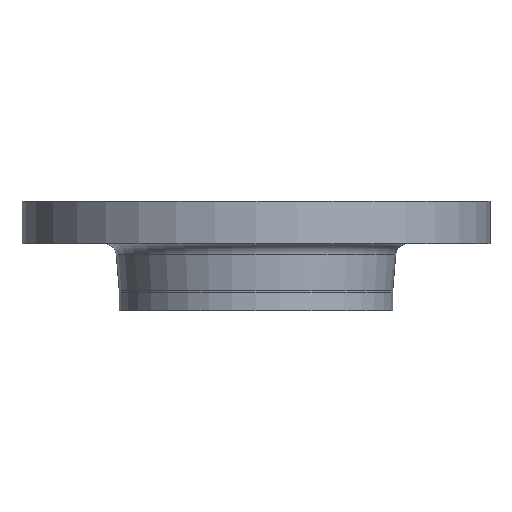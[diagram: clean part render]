
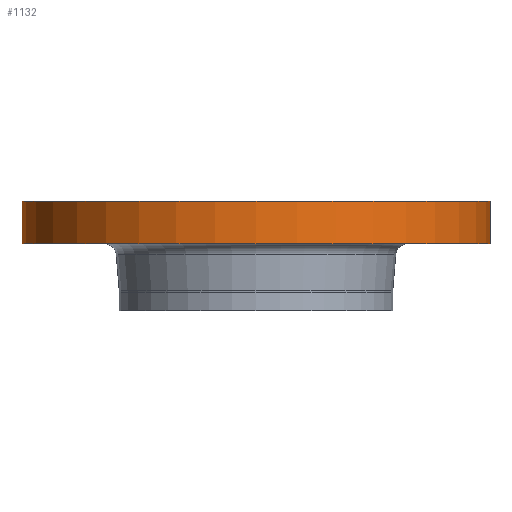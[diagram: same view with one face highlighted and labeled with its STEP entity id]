
A CAD part, front view. The second image highlights one B-rep face of the part: STEP entity #1132.
In plain terms, the highlighted cylindrical face has radius 187.5 mm (diameter 375 mm), a partial arc.
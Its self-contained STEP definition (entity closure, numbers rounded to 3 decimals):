
#64 = DIRECTION ( 'NONE',  ( 0., 0., 1. ) ) ;
#115 = CARTESIAN_POINT ( 'NONE',  ( 187.5, 0., 0. ) ) ;
#141 = CARTESIAN_POINT ( 'NONE',  ( -187.5, 0., 0. ) ) ;
#164 = DIRECTION ( 'NONE',  ( 0., 0., 1. ) ) ;
#176 = VERTEX_POINT ( 'NONE', #141 ) ;
#179 = ORIENTED_EDGE ( 'NONE', *, *, #1107, .F. ) ;
#182 = ORIENTED_EDGE ( 'NONE', *, *, #270, .F. ) ;
#183 = ORIENTED_EDGE ( 'NONE', *, *, #396, .T. ) ;
#185 = ORIENTED_EDGE ( 'NONE', *, *, #534, .F. ) ;
#196 = FACE_OUTER_BOUND ( 'NONE', #952, .T. ) ;
#233 = CIRCLE ( 'NONE', #235, 187.5 ) ;
#235 = AXIS2_PLACEMENT_3D ( 'NONE', #1101, #164, #704 ) ;
#242 = DIRECTION ( 'NONE',  ( 0., 0., 1. ) ) ;
#270 = EDGE_CURVE ( 'NONE', #281, #276, #772, .T. ) ;
#276 = VERTEX_POINT ( 'NONE', #1106 ) ;
#281 = VERTEX_POINT ( 'NONE', #708 ) ;
#332 = DIRECTION ( 'NONE',  ( -1., 0., 0. ) ) ;
#337 = CARTESIAN_POINT ( 'NONE',  ( -187.5, 0., -98. ) ) ;
#396 = EDGE_CURVE ( 'NONE', #281, #1321, #825, .T. ) ;
#534 = EDGE_CURVE ( 'NONE', #176, #1321, #233, .T. ) ;
#640 = DIRECTION ( 'NONE',  ( 1., 0., 0. ) ) ;
#669 = VECTOR ( 'NONE', #242, 1000. ) ;
#704 = DIRECTION ( 'NONE',  ( 1., 0., 0. ) ) ;
#708 = CARTESIAN_POINT ( 'NONE',  ( 187.5, 0., -34. ) ) ;
#712 = CYLINDRICAL_SURFACE ( 'NONE', #1144, 187.5 ) ;
#766 = AXIS2_PLACEMENT_3D ( 'NONE', #876, #1177, #332 ) ;
#772 = CIRCLE ( 'NONE', #766, 187.5 ) ;
#774 = VECTOR ( 'NONE', #791, 1000. ) ;
#791 = DIRECTION ( 'NONE',  ( 0., 0., 1. ) ) ;
#825 = LINE ( 'NONE', #1136, #669 ) ;
#876 = CARTESIAN_POINT ( 'NONE',  ( 0., 0., -34. ) ) ;
#952 = EDGE_LOOP ( 'NONE', ( #179, #182, #183, #185 ) ) ;
#1053 = CARTESIAN_POINT ( 'NONE',  ( 0., 0., -98. ) ) ;
#1101 = CARTESIAN_POINT ( 'NONE',  ( 0., 0., 0. ) ) ;
#1106 = CARTESIAN_POINT ( 'NONE',  ( -187.5, 0., -34. ) ) ;
#1107 = EDGE_CURVE ( 'NONE', #276, #176, #1178, .T. ) ;
#1132 = ADVANCED_FACE ( 'NONE', ( #196 ), #712, .T. ) ;
#1136 = CARTESIAN_POINT ( 'NONE',  ( 187.5, 0., -98. ) ) ;
#1144 = AXIS2_PLACEMENT_3D ( 'NONE', #1053, #64, #640 ) ;
#1177 = DIRECTION ( 'NONE',  ( 0., 0., -1. ) ) ;
#1178 = LINE ( 'NONE', #337, #774 ) ;
#1321 = VERTEX_POINT ( 'NONE', #115 ) ;
